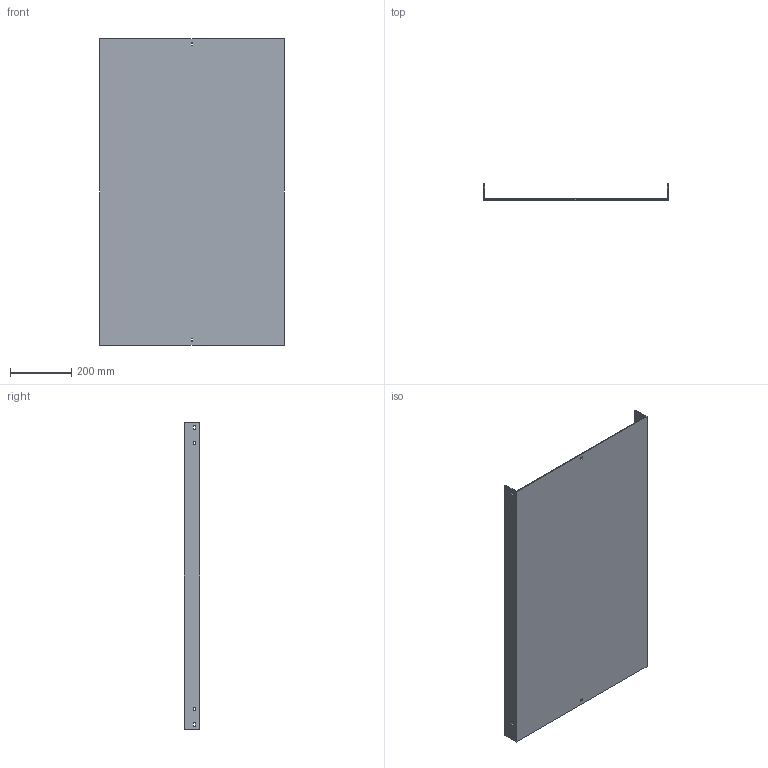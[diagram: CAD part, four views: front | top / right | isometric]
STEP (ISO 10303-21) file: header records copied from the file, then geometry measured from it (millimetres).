
FILE_DESCRIPTION (( 'STEP AP214' ), '1' );
FILE_NAME ('03F1B600.step', '2025-02-21T13:23:20', ( '' ), ( '' ), 'SwSTEP 2.0', 'SolidWorks 2023', '' );
FILE_SCHEMA (( 'AUTOMOTIVE_DESIGN' ));
Length unit declared in the file: millimetre
Products named in the file (1): 03F1B600
Bounding box: 604 x 52 x 1000 mm (x, y, z)
Volume: 2451130.5 mm3; surface area: 1413722 mm2
Topology: 1 solids, 1 shells, 50 faces, 144 edges, 96 vertices
Faces by surface type: plane 50
Entity records: 1671 total; most frequent: CARTESIAN_POINT 291, ORIENTED_EDGE 288, DIRECTION 246, LINE 144, EDGE_CURVE 144, VECTOR 144, VERTEX_POINT 96, EDGE_LOOP 70
